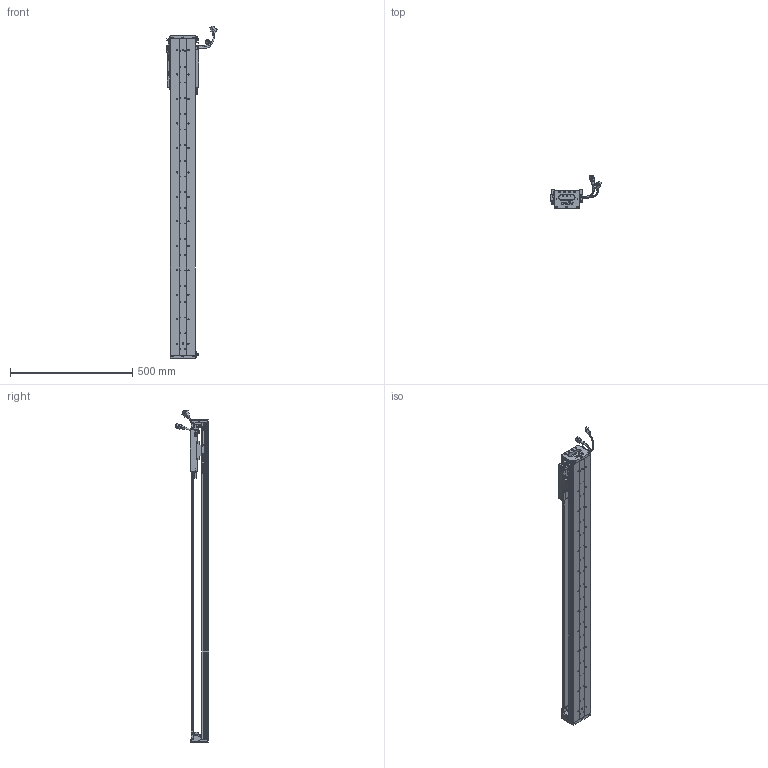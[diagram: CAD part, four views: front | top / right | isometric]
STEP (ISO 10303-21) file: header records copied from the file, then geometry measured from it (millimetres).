
FILE_DESCRIPTION (( 'STEP AP203' ), '1' );
FILE_NAME ('Z2-RY100D-1-L500-B-K.SLDASM_1050.step', '2021-05-17T02:35:54', ( '盈信电脑' ), ( '东莞市道滘镇水果街19号' ), 'SwSTEP 2.0', 'SolidWorks 2016', '' );
FILE_SCHEMA (( 'CONFIG_CONTROL_DESIGN' ));
Length unit declared in the file: millimetre
Products named in the file (36): PSLH080_PSLF2; Z2-RY100-L500詩湍90mm遵_1050; Z-RY100D詩湍狟揤裔; Z-RY100D詩湍奻揤裔; HOLDER0; SEAL-Part-1; HARNESS-Part-2; Z2-RY100铝滑块（21款）; COVER; SCREW-M1.6-2; SCREW-M1.7; LABEL-Part-1; Z-100詩湍傷裔啣; SCREW-M1.7-1; HARNESS-Part-1; 覜茼ん672; SCREW-M1.6-3; 100-Z-臏賑輸盄裔(21遴); COVER-Part-1; SCALE-Part-2; 140雄赽晤鎢ん堤盄; 080黍杅芛假蚾釱21遴; SCREW-M1.6; HARNESS; 榋妏寠巭燃_暯_M2_2; PBU_SHEET; SCALE-Part-1; SCALE; SCREW-M1.6-1; LABEL; SEAL; 140蚥薯蝶輸; SHIELDPLATE; Z2-RY100D-500-倰第菁釱_1050; Z2-RY100D-1-L500-B-K.SLDASM_1050; Z-RY100D覜茼んえ
Assembly tree (43 placements, depth 4):
  Z2-RY100D-1-L500-B-K.SLDASM_1050
    Z2-RY100D-500-倰第菁釱_1050
    Z2-RY100铝滑块（21款）
    PSLH080_PSLF2
      SCALE
        SCALE-Part-1
        SCALE-Part-2
      HARNESS
        HARNESS-Part-1
        HARNESS-Part-2
      LABEL
        LABEL-Part-1
      COVER
        COVER-Part-1
      SEAL
        SEAL-Part-1
      榋妏寠巭燃_暯_M2_2
      SHIELDPLATE
      SCREW-M1.7
      SCREW-M1.7-1
      PBU_SHEET
      SCREW-M1.6
      SCREW-M1.6-1
      SCREW-M1.6-2
      SCREW-M1.6-3
      HOLDER0
    080黍杅芛假蚾釱21遴
    Z-100詩湍傷裔啣  x2
    140蚥薯蝶輸  x2
    覜茼ん672  x3
    Z-RY100D覜茼んえ  x3
    100-Z-臏賑輸盄裔(21遴)
    140雄赽晤鎢ん堤盄
    Z2-RY100-L500詩湍90mm遵_1050
    Z-RY100D詩湍狟揤裔  x2
    Z-RY100D詩湍奻揤裔  x2
Bounding box: 205.84 x 136.11 x 1355.43 mm (x, y, z)
Volume: 2689058.1 mm3; surface area: 1048478.9 mm2
Topology: 38 solids, 38 shells, 2632 faces, 6963 edges, 4416 vertices
Faces by surface type: cylinder 1162, plane 1130, cone 218, torus 69, bspline 53
Entity records: 72367 total; most frequent: CARTESIAN_POINT 15268, DIRECTION 11475, ORIENTED_EDGE 10822, EDGE_CURVE 5411, AXIS2_PLACEMENT_3D 4231, VERTEX_POINT 3484, LINE 3013, VECTOR 3013
